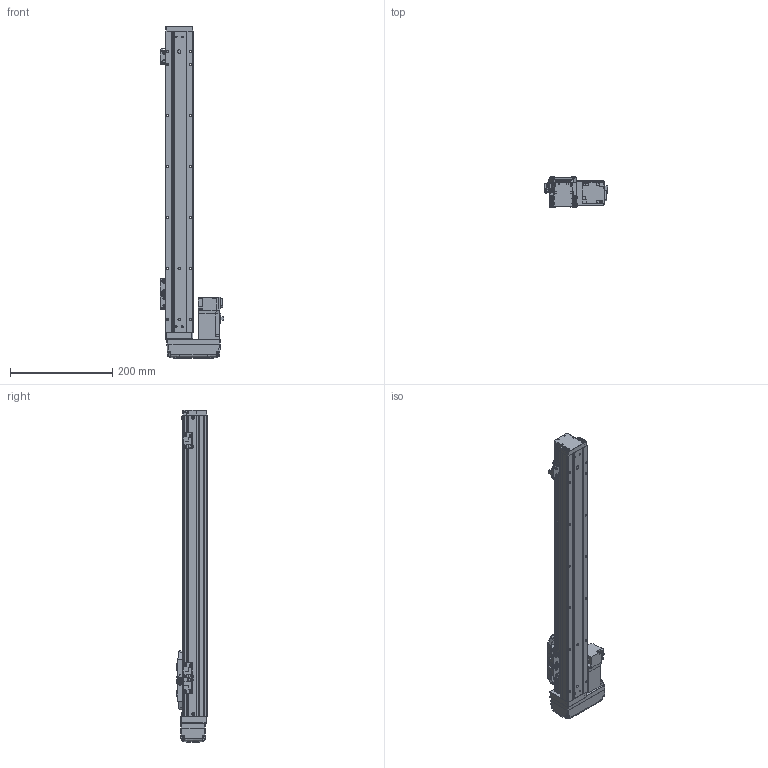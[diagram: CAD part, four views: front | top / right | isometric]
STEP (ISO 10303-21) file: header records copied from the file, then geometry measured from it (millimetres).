
FILE_DESCRIPTION (( 'STEP AP203' ), '1' );
FILE_NAME ('GTH5-450-BR-M10-C4.step', '2022-09-23T00:51:04', ( '微软用户' ), ( '微软中国' ), 'SwSTEP 2.0', 'SolidWorks 2020', '' );
FILE_SCHEMA (( 'CONFIG_CONTROL_DESIGN' ));
Length unit declared in the file: millimetre
Products named in the file (19): BTH-M3X5X6; GBT96.1-2002 3×0.8; GTH50-026; GTH50-001_450; GTH50-024; GTH5-450-BR-M10-C4; GBT 70.1-M4×16; GBT 70.1-M2.5×6; GTH50-003; GTH50-028; GTH50-006; GTH50-013; GTH50-022-1; GTH50-004; GTH50-023; HG-KR13; GBT 70.3-M3℅6; GBT 70.1-M3℅6; GTH50-027-1_BTHA50-027-2
Assembly tree (57 placements, depth 2):
  GTH5-450-BR-M10-C4
    GTH50-006
    GTH50-004
    GBT 70.3-M3℅6  x4
    BTH-M3X5X6  x8
    GTH50-001_450
    GBT 70.1-M4×16  x8
    GTH50-003
    GTH50-013
    GTH50-023  x3
    GBT 70.1-M3℅6  x12
    GBT96.1-2002 3×0.8  x6
    GTH50-024  x3
    GBT 70.1-M2.5×6  x2
    GTH50-028  x2
    GTH50-022-1
    HG-KR13
    GTH50-027-1_BTHA50-027-2
    GTH50-026
Bounding box: 123.6 x 60 x 650 mm (x, y, z)
Volume: 1510012.9 mm3; surface area: 268424.5 mm2
Topology: 59 solids, 59 shells, 2156 faces, 5004 edges, 3068 vertices
Faces by surface type: plane 1142, cylinder 585, cone 219, torus 162, bspline 40, sphere 8
Entity records: 40012 total; most frequent: CARTESIAN_POINT 7923, DIRECTION 6157, ORIENTED_EDGE 5922, EDGE_CURVE 2961, AXIS2_PLACEMENT_3D 2140, LINE 1877, VECTOR 1877, VERTEX_POINT 1870
